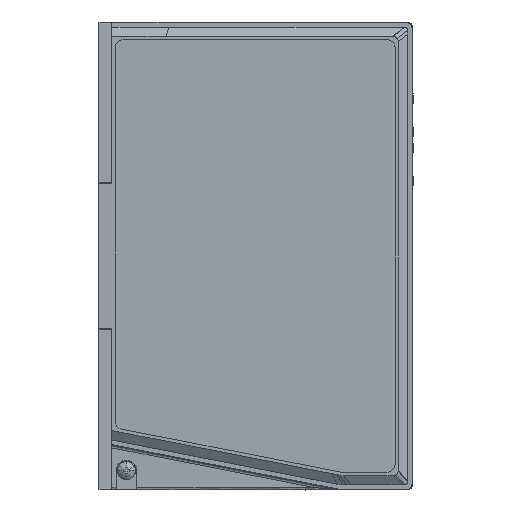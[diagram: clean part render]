
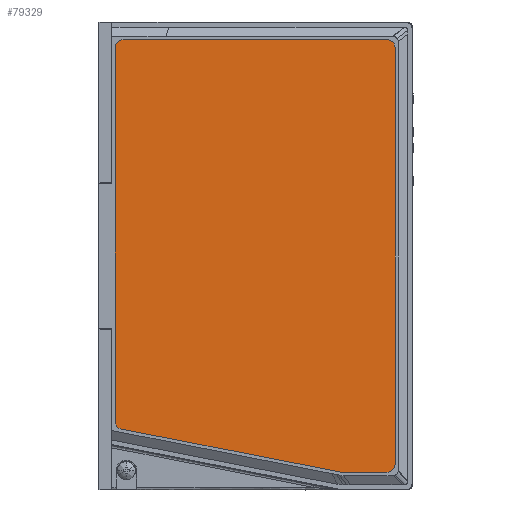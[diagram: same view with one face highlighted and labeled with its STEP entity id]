
A CAD part, left-side view. The second image highlights one B-rep face of the part: STEP entity #79329.
In plain terms, the highlighted planar face has unit normal (-1, 0, 0).
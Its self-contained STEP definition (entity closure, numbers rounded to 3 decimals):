
#36689=B_SPLINE_CURVE_WITH_KNOTS('',1,(#400977,#400978),.UNSPECIFIED.,.F.,
 .F.,(2,2),(-129.04,0.),.UNSPECIFIED.);
#36690=B_SPLINE_CURVE_WITH_KNOTS('',1,(#400982,#400983),.UNSPECIFIED.,.F.,
 .F.,(2,2),(-13.91,0.),.UNSPECIFIED.);
#36691=B_SPLINE_CURVE_WITH_KNOTS('',1,(#400987,#400988),.UNSPECIFIED.,.F.,
 .F.,(2,2),(-69.436,0.),.UNSPECIFIED.);
#36692=B_SPLINE_CURVE_WITH_KNOTS('',1,(#400992,#400993),.UNSPECIFIED.,.F.,
 .F.,(2,2),(-115.704,0.),.UNSPECIFIED.);
#36693=B_SPLINE_CURVE_WITH_KNOTS('',1,(#400997,#400998),.UNSPECIFIED.,.F.,
 .F.,(2,2),(-81.72,0.),.UNSPECIFIED.);
#79329=ADVANCED_FACE('',(#87757),#252646,.T.);
#87757=FACE_OUTER_BOUND('',#96460,.T.);
#96460=EDGE_LOOP('',(#135727,#135728,#135729,#135730,#135731,#135732,#135733,
#135734,#135735,#135736));
#135727=ORIENTED_EDGE('',*,*,#184355,.T.);
#135728=ORIENTED_EDGE('',*,*,#184354,.T.);
#135729=ORIENTED_EDGE('',*,*,#184353,.T.);
#135730=ORIENTED_EDGE('',*,*,#184352,.T.);
#135731=ORIENTED_EDGE('',*,*,#184351,.T.);
#135732=ORIENTED_EDGE('',*,*,#184350,.T.);
#135733=ORIENTED_EDGE('',*,*,#184349,.T.);
#135734=ORIENTED_EDGE('',*,*,#184348,.T.);
#135735=ORIENTED_EDGE('',*,*,#184347,.T.);
#135736=ORIENTED_EDGE('',*,*,#184356,.T.);
#184347=EDGE_CURVE('',#235133,#235134,#197303,.T.);
#184348=EDGE_CURVE('',#235135,#235133,#36689,.T.);
#184349=EDGE_CURVE('',#235136,#235135,#197304,.T.);
#184350=EDGE_CURVE('',#235137,#235136,#36690,.T.);
#184351=EDGE_CURVE('',#235138,#235137,#197305,.T.);
#184352=EDGE_CURVE('',#235139,#235138,#36691,.T.);
#184353=EDGE_CURVE('',#235140,#235139,#197306,.T.);
#184354=EDGE_CURVE('',#235141,#235140,#36692,.T.);
#184355=EDGE_CURVE('',#235142,#235141,#197307,.T.);
#184356=EDGE_CURVE('',#235134,#235142,#36693,.T.);
#197303=(
BOUNDED_CURVE()
B_SPLINE_CURVE(2,(#400974,#400975,#400976),.UNSPECIFIED.,.F.,.F.)
B_SPLINE_CURVE_WITH_KNOTS((3,3),(0.,3.927),.UNSPECIFIED.)
CURVE()
GEOMETRIC_REPRESENTATION_ITEM()
RATIONAL_B_SPLINE_CURVE((1.,0.707,1.))
REPRESENTATION_ITEM('')
);
#197304=(
BOUNDED_CURVE()
B_SPLINE_CURVE(2,(#400979,#400980,#400981),.UNSPECIFIED.,.F.,.F.)
B_SPLINE_CURVE_WITH_KNOTS((3,3),(0.,3.927),.UNSPECIFIED.)
CURVE()
GEOMETRIC_REPRESENTATION_ITEM()
RATIONAL_B_SPLINE_CURVE((1.,0.707,1.))
REPRESENTATION_ITEM('')
);
#197305=(
BOUNDED_CURVE()
B_SPLINE_CURVE(2,(#400984,#400985,#400986),.UNSPECIFIED.,.F.,.F.)
B_SPLINE_CURVE_WITH_KNOTS((3,3),(0.,0.155),.UNSPECIFIED.)
CURVE()
GEOMETRIC_REPRESENTATION_ITEM()
RATIONAL_B_SPLINE_CURVE((1.,0.995,1.))
REPRESENTATION_ITEM('')
);
#197306=(
BOUNDED_CURVE()
B_SPLINE_CURVE(2,(#400989,#400990,#400991),.UNSPECIFIED.,.F.,.F.)
B_SPLINE_CURVE_WITH_KNOTS((3,3),(0.,3.443),.UNSPECIFIED.)
CURVE()
GEOMETRIC_REPRESENTATION_ITEM()
RATIONAL_B_SPLINE_CURVE((1.,0.772,1.))
REPRESENTATION_ITEM('')
);
#197307=(
BOUNDED_CURVE()
B_SPLINE_CURVE(2,(#400994,#400995,#400996),.UNSPECIFIED.,.F.,.F.)
B_SPLINE_CURVE_WITH_KNOTS((3,3),(0.,3.927),.UNSPECIFIED.)
CURVE()
GEOMETRIC_REPRESENTATION_ITEM()
RATIONAL_B_SPLINE_CURVE((1.,0.707,1.))
REPRESENTATION_ITEM('')
);
#235133=VERTEX_POINT('',#400964);
#235134=VERTEX_POINT('',#400965);
#235135=VERTEX_POINT('',#400966);
#235136=VERTEX_POINT('',#400967);
#235137=VERTEX_POINT('',#400968);
#235138=VERTEX_POINT('',#400969);
#235139=VERTEX_POINT('',#400970);
#235140=VERTEX_POINT('',#400971);
#235141=VERTEX_POINT('',#400972);
#235142=VERTEX_POINT('',#400973);
#252646=PLANE('',#260493);
#260493=AXIS2_PLACEMENT_3D('',#400963,#268323,$);
#268323=DIRECTION('',(-1.,0.,0.));
#400963=CARTESIAN_POINT('',(348.858,-219.887,443.03));
#400964=CARTESIAN_POINT('',(348.858,-315.339,588.034));
#400965=CARTESIAN_POINT('',(348.858,-312.839,590.534));
#400966=CARTESIAN_POINT('',(348.858,-315.339,458.994));
#400967=CARTESIAN_POINT('',(348.858,-312.839,456.494));
#400968=CARTESIAN_POINT('',(348.858,-298.929,456.494));
#400969=CARTESIAN_POINT('',(348.858,-298.775,456.509));
#400970=CARTESIAN_POINT('',(348.858,-230.638,469.877));
#400971=CARTESIAN_POINT('',(348.858,-228.619,472.33));
#400972=CARTESIAN_POINT('',(348.858,-228.619,588.034));
#400973=CARTESIAN_POINT('',(348.858,-231.119,590.534));
#400974=CARTESIAN_POINT('',(348.858,-315.339,588.034));
#400975=CARTESIAN_POINT('',(348.858,-315.339,590.534));
#400976=CARTESIAN_POINT('',(348.858,-312.839,590.534));
#400977=CARTESIAN_POINT('',(348.858,-315.339,458.994));
#400978=CARTESIAN_POINT('',(348.858,-315.339,588.034));
#400979=CARTESIAN_POINT('',(348.858,-312.839,456.494));
#400980=CARTESIAN_POINT('',(348.858,-315.339,456.494));
#400981=CARTESIAN_POINT('',(348.858,-315.339,458.994));
#400982=CARTESIAN_POINT('',(348.858,-298.929,456.494));
#400983=CARTESIAN_POINT('',(348.858,-312.839,456.494));
#400984=CARTESIAN_POINT('',(348.858,-298.775,456.509));
#400985=CARTESIAN_POINT('',(348.858,-298.852,456.494));
#400986=CARTESIAN_POINT('',(348.858,-298.929,456.494));
#400987=CARTESIAN_POINT('',(348.858,-230.638,469.877));
#400988=CARTESIAN_POINT('',(348.858,-298.775,456.509));
#400989=CARTESIAN_POINT('',(348.858,-228.619,472.33));
#400990=CARTESIAN_POINT('',(348.858,-228.619,470.273));
#400991=CARTESIAN_POINT('',(348.858,-230.638,469.877));
#400992=CARTESIAN_POINT('',(348.858,-228.619,588.034));
#400993=CARTESIAN_POINT('',(348.858,-228.619,472.33));
#400994=CARTESIAN_POINT('',(348.858,-231.119,590.534));
#400995=CARTESIAN_POINT('',(348.858,-228.619,590.534));
#400996=CARTESIAN_POINT('',(348.858,-228.619,588.034));
#400997=CARTESIAN_POINT('',(348.858,-312.839,590.534));
#400998=CARTESIAN_POINT('',(348.858,-231.119,590.534));
